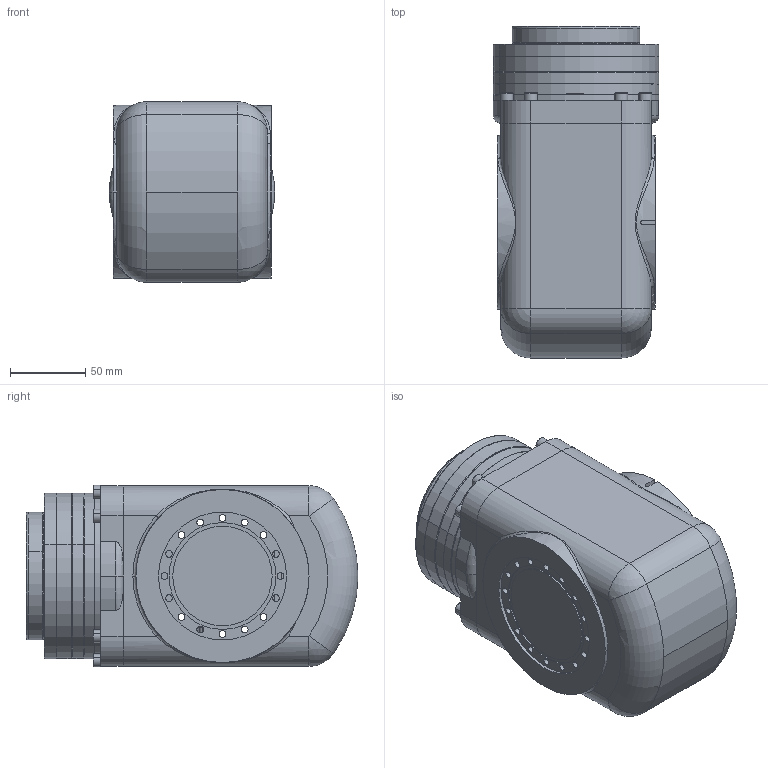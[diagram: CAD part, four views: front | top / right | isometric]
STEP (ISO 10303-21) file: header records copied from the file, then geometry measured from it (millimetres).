
FILE_DESCRIPTION (( 'STEP AP203' ), '1' );
FILE_NAME ('TKB3670-06.STEP', '2023-07-17T01:47:47', ( '1' ), ( '1' ), 'SwSTEP 2.0', 'SolidWorks 2018', '' );
FILE_SCHEMA (( 'CONFIG_CONTROL_DESIGN' ));
Length unit declared in the file: millimetre
Products named in the file (1): TKB3670-06
Bounding box: 109.95 x 220.5 x 120.49 mm (x, y, z)
Surface area: 164784.7 mm2 (no closed solid volume)
Topology: 0 solids, 24 shells, 475 faces, 1671 edges, 1179 vertices
Faces by surface type: cylinder 195, plane 146, torus 50, cone 45, sphere 32, bspline 7
Entity records: 19850 total; most frequent: CARTESIAN_POINT 5307, DIRECTION 3247, ORIENTED_EDGE 2600, EDGE_CURVE 1651, AXIS2_PLACEMENT_3D 1279, VERTEX_POINT 1179, CIRCLE 810, LINE 689
